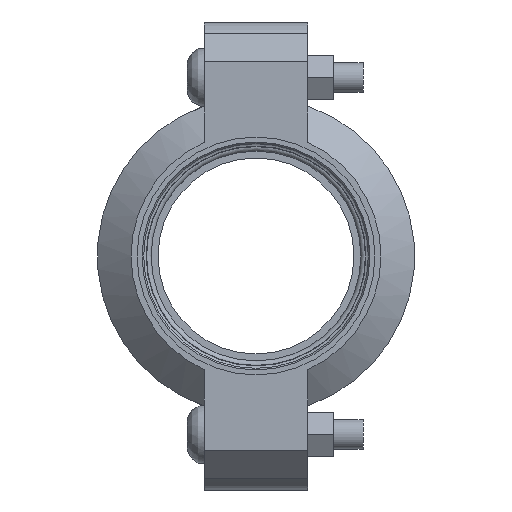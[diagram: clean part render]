
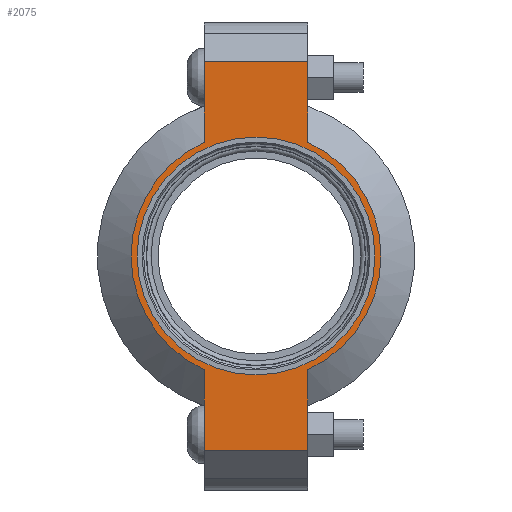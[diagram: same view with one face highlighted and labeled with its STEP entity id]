
A CAD part, left-side view. The second image highlights one B-rep face of the part: STEP entity #2075.
In plain terms, the highlighted planar face has unit normal (-1, 0, 0) as drawn and (0, 0, 1) by its records, which use the part's own axes.
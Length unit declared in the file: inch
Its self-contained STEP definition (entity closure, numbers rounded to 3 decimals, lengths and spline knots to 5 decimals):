
#190=LINE('',#3714,#291);
#203=LINE('',#3758,#304);
#208=LINE('',#3782,#309);
#215=LINE('',#3800,#316);
#222=LINE('',#3825,#323);
#223=LINE('',#3828,#324);
#291=VECTOR('',#3014,0.3937);
#304=VECTOR('',#3043,0.3937);
#309=VECTOR('',#3054,0.3937);
#316=VECTOR('',#3071,0.3937);
#323=VECTOR('',#3092,0.3937);
#324=VECTOR('',#3097,0.3937);
#380=FACE_BOUND('',#650,.T.);
#426=PLANE('',#2442);
#523=FACE_OUTER_BOUND('',#649,.T.);
#649=EDGE_LOOP('',(#1818,#1819,#1820,#1821,#1822,#1823,#1824,#1825));
#650=EDGE_LOOP('',(#1826));
#794=CIRCLE('',#2380,1.5);
#822=CIRCLE('',#2443,1.575);
#823=CIRCLE('',#2444,1.575);
#945=VERTEX_POINT('',#3502);
#988=VERTEX_POINT('',#3709);
#989=VERTEX_POINT('',#3713);
#1005=VERTEX_POINT('',#3755);
#1006=VERTEX_POINT('',#3757);
#1012=VERTEX_POINT('',#3777);
#1013=VERTEX_POINT('',#3781);
#1018=VERTEX_POINT('',#3797);
#1019=VERTEX_POINT('',#3799);
#1184=EDGE_CURVE('',#945,#945,#794,.T.);
#1246=EDGE_CURVE('',#989,#988,#190,.T.);
#1266=EDGE_CURVE('',#1006,#1005,#203,.T.);
#1275=EDGE_CURVE('',#1013,#1012,#208,.T.);
#1284=EDGE_CURVE('',#1019,#1018,#215,.T.);
#1296=EDGE_CURVE('',#1013,#1005,#222,.T.);
#1297=EDGE_CURVE('',#1012,#1019,#822,.T.);
#1298=EDGE_CURVE('',#989,#1018,#223,.T.);
#1299=EDGE_CURVE('',#988,#1006,#823,.T.);
#1818=ORIENTED_EDGE('',*,*,#1296,.F.);
#1819=ORIENTED_EDGE('',*,*,#1275,.T.);
#1820=ORIENTED_EDGE('',*,*,#1297,.T.);
#1821=ORIENTED_EDGE('',*,*,#1284,.T.);
#1822=ORIENTED_EDGE('',*,*,#1298,.F.);
#1823=ORIENTED_EDGE('',*,*,#1246,.T.);
#1824=ORIENTED_EDGE('',*,*,#1299,.T.);
#1825=ORIENTED_EDGE('',*,*,#1266,.T.);
#1826=ORIENTED_EDGE('',*,*,#1184,.T.);
#2075=ADVANCED_FACE('',(#523,#380),#426,.T.);
#2380=AXIS2_PLACEMENT_3D('',#3504,#2894,#2895);
#2442=AXIS2_PLACEMENT_3D('',#3826,#3093,#3094);
#2443=AXIS2_PLACEMENT_3D('',#3827,#3095,#3096);
#2444=AXIS2_PLACEMENT_3D('',#3829,#3098,#3099);
#2894=DIRECTION('center_axis',(0.,0.,-1.));
#2895=DIRECTION('ref_axis',(1.,0.,0.));
#3014=DIRECTION('',(1.,0.,0.));
#3043=DIRECTION('',(1.,0.,0.));
#3054=DIRECTION('',(-1.,0.,0.));
#3071=DIRECTION('',(-1.,0.,0.));
#3092=DIRECTION('',(0.,-1.,0.));
#3093=DIRECTION('center_axis',(0.,0.,1.));
#3094=DIRECTION('ref_axis',(-1.,0.,0.));
#3095=DIRECTION('center_axis',(0.,0.,1.));
#3096=DIRECTION('ref_axis',(1.,0.,0.));
#3097=DIRECTION('',(0.,1.,0.));
#3098=DIRECTION('center_axis',(0.,0.,1.));
#3099=DIRECTION('ref_axis',(1.,0.,0.));
#3502=CARTESIAN_POINT('',(-1.5,0.,0.94));
#3504=CARTESIAN_POINT('Origin',(0.,0.,0.94));
#3709=CARTESIAN_POINT('',(-1.43462,-0.65,0.94));
#3713=CARTESIAN_POINT('',(-2.45,-0.65,0.94));
#3714=CARTESIAN_POINT('',(2.95,-0.65,0.94));
#3755=CARTESIAN_POINT('',(2.45,-0.65,0.94));
#3757=CARTESIAN_POINT('',(1.43462,-0.65,0.94));
#3758=CARTESIAN_POINT('',(2.95,-0.65,0.94));
#3777=CARTESIAN_POINT('',(1.43462,0.65,0.94));
#3781=CARTESIAN_POINT('',(2.45,0.65,0.94));
#3782=CARTESIAN_POINT('',(-2.95,0.65,0.94));
#3797=CARTESIAN_POINT('',(-2.45,0.65,0.94));
#3799=CARTESIAN_POINT('',(-1.43462,0.65,0.94));
#3800=CARTESIAN_POINT('',(-2.95,0.65,0.94));
#3825=CARTESIAN_POINT('',(2.45,-0.325,0.94));
#3826=CARTESIAN_POINT('Origin',(0.,0.,
0.94));
#3827=CARTESIAN_POINT('Origin',(0.,0.,0.94));
#3828=CARTESIAN_POINT('',(-2.45,0.325,0.94));
#3829=CARTESIAN_POINT('Origin',(0.,0.,0.94));
